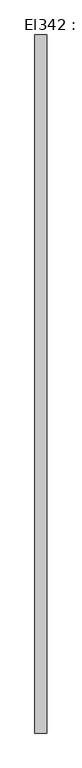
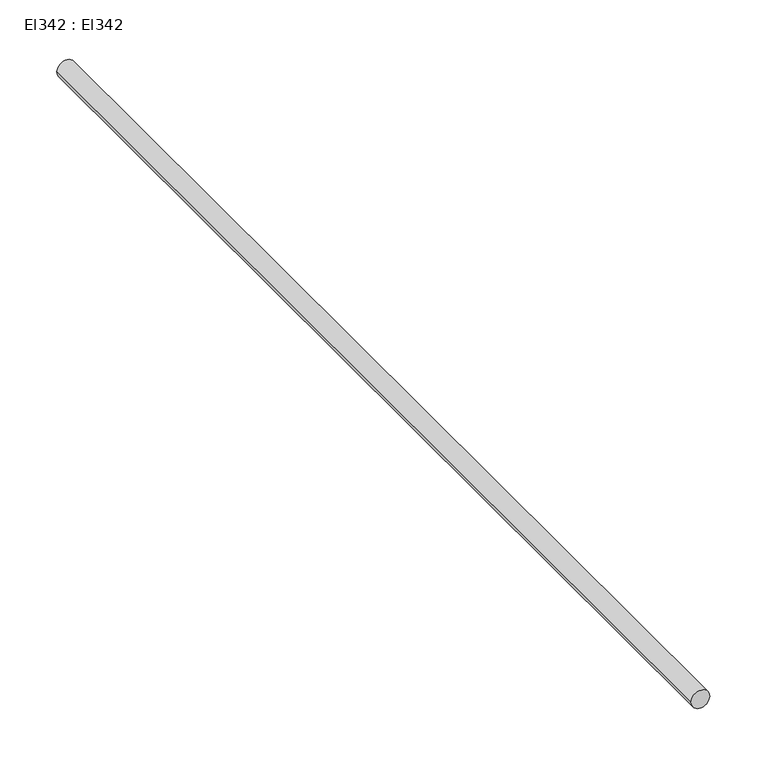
"""IFC4 building model written with IfcOpenShell, lengths in millimetres: cable carrier segment geometry, El342 : El342."""

from ifc_helpers import new_model, si_unit, point, frame, frame_2d, origin, place, context, project, spatial, circle_curve, trimmed, segment, composite_curve, outline, extrude, source, transform, mapped, element, save


def el342_el342_63327a57(model_context):
    return source(origin(), model_context, "Body", "SweptSolid", [
        extrude(outline(composite_curve([segment(trimmed(circle_curve(frame_2d((300.0, 6600.0)), 9.5), [point((300.0, 6590.5))], [point((300.0, 6609.5))], False, "CARTESIAN"), True, "CONTINUOUS"), segment(trimmed(circle_curve(frame_2d((300.0, 6600.0)), 9.5), [point((300.0, 6609.5))], [point((300.0, 6590.5))], False, "CARTESIAN"), True, "CONTINUOUS")], self_intersect=False)), frame((0.0, 10791.471, 0.0), z_axis=(0.0, 1.0, 0.0), x_axis=(0.0, 0.0, 1.0)), (0.0, 0.0, 1.0), 1114.46),
    ])


if __name__ == "__main__":
    model = new_model("IFC4")
    model_context = context("Model", 3, world=origin())
    ifc_project = project(units=[si_unit("LENGTHUNIT", "METRE", prefix="MILLI")], contexts=[model_context])
    site = spatial("IfcSite", under=ifc_project)
    building = spatial("IfcBuilding", under=site)
    placement = place(None, origin())
    el342_el342_shape = el342_el342_63327a57(model_context)
    element("IfcCableCarrierSegment", 1, ObjectType="El342 : El342", at=placement, inside=building, context=model_context, shape_type="MappedRepresentation", body=[
        mapped(el342_el342_shape, transform((0.0, 0.0, 0.0), x_axis=(1.0, 0.0, 0.0), y_axis=(0.0, 1.0, 0.0), z_axis=(0.0, 0.0, 1.0))),
    ])
    save(model, "model.ifc")
